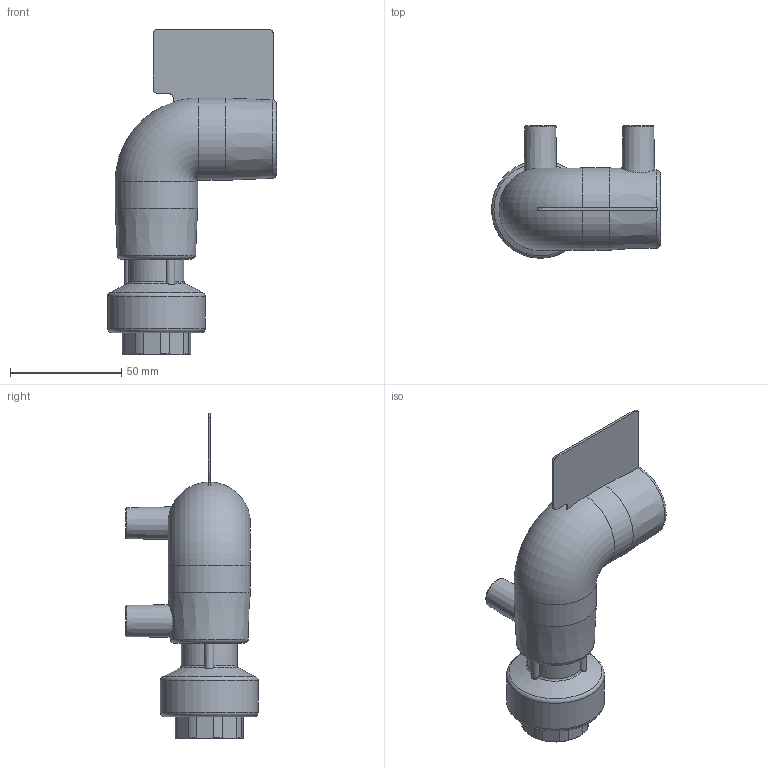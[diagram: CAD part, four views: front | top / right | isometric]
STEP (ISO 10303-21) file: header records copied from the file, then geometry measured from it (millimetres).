
FILE_DESCRIPTION(/* description */ ('Unknown'),/* implementation_level */ '2;1');
FILE_NAME(/* name */ 'GE9TFP025C.P',/* time_stamp */ '2021-11-10T16:45:42+01:00',/* author */ ('Unknown'),/* organization */ ('Unknown'),/* preprocessor_version */ 'ST-DEVELOPER v16.7',/* originating_system */ 'Solid Edge',/* authorisation */ 'Unknown');
FILE_SCHEMA (('AUTOMOTIVE_DESIGN {1 0 10303 214 3 1 1}'));
Length unit declared in the file: millimetre
Products named in the file (5): GE9TFP025C.P; GE9P025C.P; RTOFP025C; Parte PE 025; IOF025C
Assembly tree (4 placements, depth 3):
  GE9TFP025C.P
    GE9P025C.P
    RTOFP025C
      Parte PE 025
      IOF025C
Bounding box: 76 x 59.5 x 146.5 mm (x, y, z)
Volume: 101695 mm3; surface area: 47512 mm2
Topology: 3 solids, 3 shells, 531 faces, 1292 edges, 785 vertices
Faces by surface type: bspline 231, plane 119, cylinder 97, cone 43, torus 41
Full cylindrical faces by diameter (mm): 4 x2, 10 x2, 19 x1, 23.5 x3, 24.117 x1, 25 x3, 26.5 x2, 32.5 x2, 33.4 x2, 36 x4, 37 x1, 44 x1
Entity records: 19523 total; most frequent: CARTESIAN_POINT 6949, ORIENTED_EDGE 2462, DIRECTION 2018, EDGE_CURVE 1231, AXIS2_PLACEMENT_3D 930, VERTEX_POINT 765, EDGE_LOOP 596, FACE_BOUND 596
